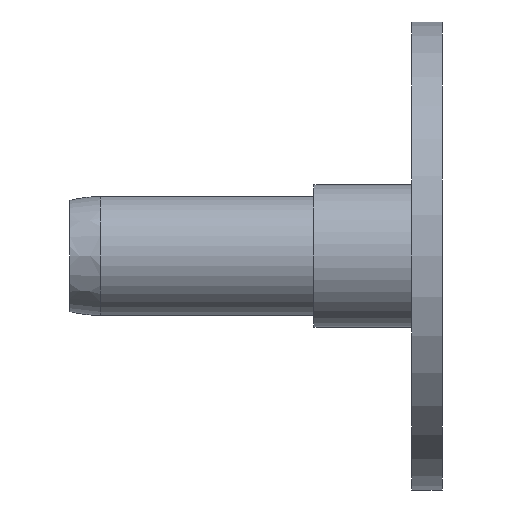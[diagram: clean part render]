
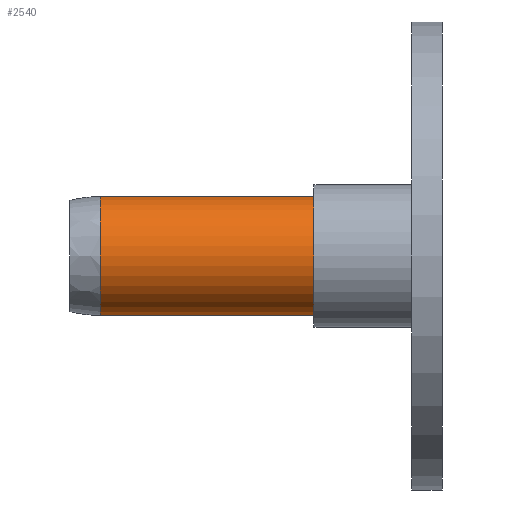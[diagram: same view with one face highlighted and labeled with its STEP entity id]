
A CAD part, front view. The second image highlights one B-rep face of the part: STEP entity #2540.
In plain terms, the highlighted cylindrical face has radius 9.271 mm (diameter 18.542 mm), a partial arc.
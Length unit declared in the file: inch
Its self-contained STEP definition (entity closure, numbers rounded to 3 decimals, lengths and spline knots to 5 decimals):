
#30 = ORIENTED_EDGE ( 'NONE', *, *, #2636, .T. ) ;
#164 = CIRCLE ( 'NONE', #2722, 0.365 ) ;
#363 = AXIS2_PLACEMENT_3D ( 'NONE', #3513, #1426, #2903 ) ;
#429 = AXIS2_PLACEMENT_3D ( 'NONE', #2911, #1144, #3217 ) ;
#615 = ORIENTED_EDGE ( 'NONE', *, *, #2069, .T. ) ;
#631 = CIRCLE ( 'NONE', #429, 0.365 ) ;
#636 = VERTEX_POINT ( 'NONE', #830 ) ;
#690 = EDGE_CURVE ( 'NONE', #995, #3067, #164, .T. ) ;
#792 = LINE ( 'NONE', #898, #1571 ) ;
#830 = CARTESIAN_POINT ( 'NONE',  ( -0.75, 0., 0.365 ) ) ;
#898 = CARTESIAN_POINT ( 'NONE',  ( -2.25, 0., -0.365 ) ) ;
#995 = VERTEX_POINT ( 'NONE', #1163 ) ;
#1144 = DIRECTION ( 'NONE',  ( -1., 0., 0. ) ) ;
#1163 = CARTESIAN_POINT ( 'NONE',  ( -2.0625, 0., 0.365 ) ) ;
#1398 = VERTEX_POINT ( 'NONE', #1659 ) ;
#1426 = DIRECTION ( 'NONE',  ( -1., 0., 0. ) ) ;
#1440 = DIRECTION ( 'NONE',  ( 1., 0., 0. ) ) ;
#1474 = DIRECTION ( 'NONE',  ( -1., 0., 0. ) ) ;
#1571 = VECTOR ( 'NONE', #1474, 39.37008 ) ;
#1619 = FACE_OUTER_BOUND ( 'NONE', #2361, .T. ) ;
#1659 = CARTESIAN_POINT ( 'NONE',  ( -0.75, 0., -0.365 ) ) ;
#2069 = EDGE_CURVE ( 'NONE', #1398, #636, #631, .T. ) ;
#2161 = CARTESIAN_POINT ( 'NONE',  ( -2.0625, 0., -0.365 ) ) ;
#2361 = EDGE_LOOP ( 'NONE', ( #3224, #615, #30, #3276 ) ) ;
#2540 = ADVANCED_FACE ( 'NONE', ( #1619 ), #3010, .T. ) ;
#2636 = EDGE_CURVE ( 'NONE', #636, #995, #3618, .T. ) ;
#2722 = AXIS2_PLACEMENT_3D ( 'NONE', #3221, #1440, #3524 ) ;
#2825 = VECTOR ( 'NONE', #3179, 39.37008 ) ;
#2903 = DIRECTION ( 'NONE',  ( 0., 0., 1. ) ) ;
#2907 = EDGE_CURVE ( 'NONE', #1398, #3067, #792, .T. ) ;
#2911 = CARTESIAN_POINT ( 'NONE',  ( -0.75, 0., 0. ) ) ;
#3010 = CYLINDRICAL_SURFACE ( 'NONE', #363, 0.365 ) ;
#3067 = VERTEX_POINT ( 'NONE', #2161 ) ;
#3179 = DIRECTION ( 'NONE',  ( -1., 0., 0. ) ) ;
#3217 = DIRECTION ( 'NONE',  ( 0., 0., 1. ) ) ;
#3221 = CARTESIAN_POINT ( 'NONE',  ( -2.0625, 0., 0. ) ) ;
#3224 = ORIENTED_EDGE ( 'NONE', *, *, #2907, .F. ) ;
#3276 = ORIENTED_EDGE ( 'NONE', *, *, #690, .T. ) ;
#3481 = CARTESIAN_POINT ( 'NONE',  ( -2.25, 0., 0.365 ) ) ;
#3513 = CARTESIAN_POINT ( 'NONE',  ( -2.25, 0., 0. ) ) ;
#3524 = DIRECTION ( 'NONE',  ( 0., 0., 1. ) ) ;
#3618 = LINE ( 'NONE', #3481, #2825 ) ;
